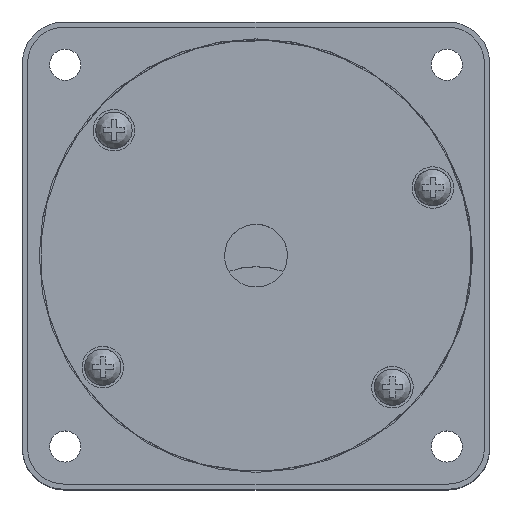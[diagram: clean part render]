
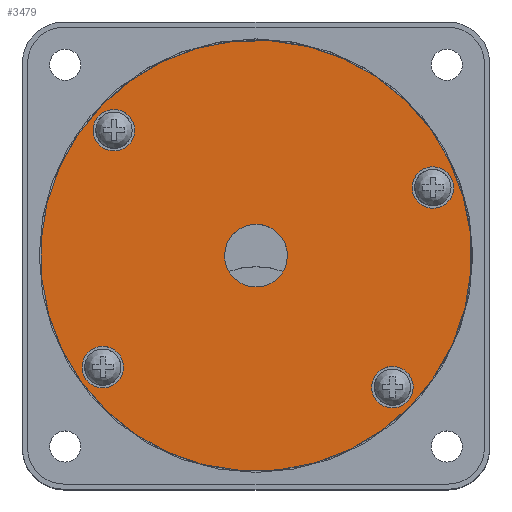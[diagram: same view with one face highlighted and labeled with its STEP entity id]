
A CAD part, top view. The second image highlights one B-rep face of the part: STEP entity #3479.
In plain terms, the highlighted planar face has unit normal (0, 0, 1).
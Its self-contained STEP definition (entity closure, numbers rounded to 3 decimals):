
#605=CARTESIAN_POINT('',(-41.401,2.861,81.5));
#606=VERTEX_POINT('',#605);
#607=CARTESIAN_POINT('',(0.0,0.,81.5));
#608=DIRECTION('',(0.0,0.0,-1.0));
#609=DIRECTION('',(-1.0,0.0,0.0));
#610=AXIS2_PLACEMENT_3D('',#607,#608,#609);
#611=CIRCLE('',#610,41.5);
#612=EDGE_CURVE('',#606,#606,#611,.T.);
#3364=CARTESIAN_POINT('',(38.055,12.837,81.5));
#3365=VERTEX_POINT('',#3364);
#3366=CARTESIAN_POINT('',(34.065,13.113,81.5));
#3367=DIRECTION('',(0.0,0.0,-1.));
#3368=DIRECTION('',(-0.998,0.069,0.0));
#3369=AXIS2_PLACEMENT_3D('',#3366,#3367,#3368);
#3370=CIRCLE('',#3369,4.0);
#3371=EDGE_CURVE('',#3365,#3365,#3370,.T.);
#3384=CARTESIAN_POINT('',(30.267,-25.607,81.5));
#3385=VERTEX_POINT('',#3384);
#3386=CARTESIAN_POINT('',(26.276,-25.332,81.5));
#3387=DIRECTION('',(0.0,0.0,-1.));
#3388=DIRECTION('',(-0.998,0.069,0.0));
#3389=AXIS2_PLACEMENT_3D('',#3386,#3387,#3388);
#3390=CIRCLE('',#3389,4.0);
#3391=EDGE_CURVE('',#3385,#3385,#3390,.T.);
#3404=CARTESIAN_POINT('',(-25.52,-21.752,81.5));
#3405=VERTEX_POINT('',#3404);
#3406=CARTESIAN_POINT('',(-29.511,-21.477,81.5));
#3407=DIRECTION('',(0.0,0.0,-1.));
#3408=DIRECTION('',(-0.998,0.069,0.0));
#3409=AXIS2_PLACEMENT_3D('',#3406,#3407,#3408);
#3410=CIRCLE('',#3409,4.0);
#3411=EDGE_CURVE('',#3405,#3405,#3410,.T.);
#3424=CARTESIAN_POINT('',(-23.369,23.888,81.5));
#3425=VERTEX_POINT('',#3424);
#3426=CARTESIAN_POINT('',(-27.359,24.164,81.5));
#3427=DIRECTION('',(0.0,0.0,-1.));
#3428=DIRECTION('',(-0.998,0.069,0.0));
#3429=AXIS2_PLACEMENT_3D('',#3426,#3427,#3428);
#3430=CIRCLE('',#3429,4.0);
#3431=EDGE_CURVE('',#3425,#3425,#3430,.T.);
#3444=CARTESIAN_POINT('',(6.036,-0.417,81.5));
#3445=VERTEX_POINT('',#3444);
#3446=CARTESIAN_POINT('',(0.,0.,81.5));
#3447=DIRECTION('',(0.0,0.0,-1.0));
#3448=DIRECTION('',(-0.998,0.069,0.0));
#3449=AXIS2_PLACEMENT_3D('',#3446,#3447,#3448);
#3450=CIRCLE('',#3449,6.05);
#3451=EDGE_CURVE('',#3445,#3445,#3450,.T.);
#3456=CARTESIAN_POINT('',(0.,0.,81.5));
#3457=DIRECTION('',(0.0,0.0,1.0));
#3458=DIRECTION('',(1.0,0.0,0.0));
#3459=AXIS2_PLACEMENT_3D('',#3456,#3457,#3458);
#3460=PLANE('',#3459);
#3461=ORIENTED_EDGE('',*,*,#612,.F.);
#3462=EDGE_LOOP('',(#3461));
#3463=FACE_OUTER_BOUND('',#3462,.T.);
#3464=ORIENTED_EDGE('',*,*,#3371,.T.);
#3465=EDGE_LOOP('',(#3464));
#3466=FACE_BOUND('',#3465,.T.);
#3467=ORIENTED_EDGE('',*,*,#3391,.T.);
#3468=EDGE_LOOP('',(#3467));
#3469=FACE_BOUND('',#3468,.T.);
#3470=ORIENTED_EDGE('',*,*,#3411,.T.);
#3471=EDGE_LOOP('',(#3470));
#3472=FACE_BOUND('',#3471,.T.);
#3473=ORIENTED_EDGE('',*,*,#3431,.T.);
#3474=EDGE_LOOP('',(#3473));
#3475=FACE_BOUND('',#3474,.T.);
#3476=ORIENTED_EDGE('',*,*,#3451,.T.);
#3477=EDGE_LOOP('',(#3476));
#3478=FACE_BOUND('',#3477,.T.);
#3479=ADVANCED_FACE('',(#3463,#3466,#3469,#3472,#3475,#3478),#3460,.T.);
